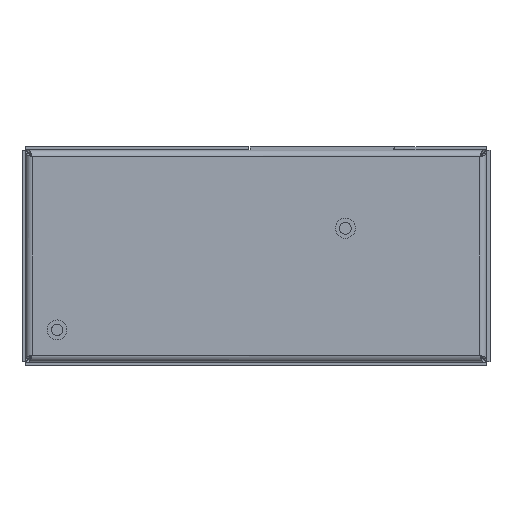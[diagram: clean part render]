
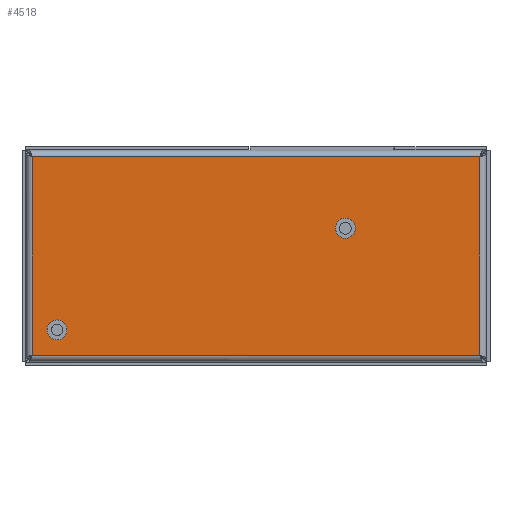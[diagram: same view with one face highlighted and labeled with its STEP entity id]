
A CAD part, front view. The second image highlights one B-rep face of the part: STEP entity #4518.
In plain terms, the highlighted planar face has unit normal (0, -1, 0).
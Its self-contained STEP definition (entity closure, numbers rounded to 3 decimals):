
#402 = CIRCLE ( 'NONE', #15128, 2.15 ) ;
#663 = FACE_OUTER_BOUND ( 'NONE', #9059, .T. ) ;
#2610 = LINE ( 'NONE', #20042, #12805 ) ;
#2728 = DIRECTION ( 'NONE',  ( 0., 1., 0. ) ) ;
#2893 = DIRECTION ( 'NONE',  ( 0., 0., -1. ) ) ;
#3172 = DIRECTION ( 'NONE',  ( 1., 0., 0. ) ) ;
#4118 = CARTESIAN_POINT ( 'NONE',  ( -42.94, 0., -13.805 ) ) ;
#4518 = ADVANCED_FACE ( 'NONE', ( #5193, #20456, #663 ), #18151, .T. ) ;
#5170 = VECTOR ( 'NONE', #23740, 1000. ) ;
#5193 = FACE_BOUND ( 'NONE', #11924, .T. ) ;
#5494 = VECTOR ( 'NONE', #20116, 1000. ) ;
#5734 = EDGE_CURVE ( 'NONE', #15230, #15230, #16824, .T. ) ;
#6645 = CARTESIAN_POINT ( 'NONE',  ( 48.34, 0., -21.44 ) ) ;
#6657 = DIRECTION ( 'NONE',  ( 0., 0., 1. ) ) ;
#6740 = CARTESIAN_POINT ( 'NONE',  ( -48.34, 0., 22.069 ) ) ;
#7777 = EDGE_CURVE ( 'NONE', #12523, #8359, #2610, .T. ) ;
#8180 = CARTESIAN_POINT ( 'NONE',  ( -48.34, 0., 21.44 ) ) ;
#8257 = LINE ( 'NONE', #10856, #24179 ) ;
#8359 = VERTEX_POINT ( 'NONE', #18526 ) ;
#8519 = DIRECTION ( 'NONE',  ( 0., 1., 0. ) ) ;
#8757 = ORIENTED_EDGE ( 'NONE', *, *, #5734, .T. ) ;
#8890 = EDGE_CURVE ( 'NONE', #16065, #12523, #8257, .T. ) ;
#9059 = EDGE_LOOP ( 'NONE', ( #12756, #18177, #21349, #24307 ) ) ;
#9081 = EDGE_LOOP ( 'NONE', ( #8757 ) ) ;
#10266 = LINE ( 'NONE', #10306, #5170 ) ;
#10306 = CARTESIAN_POINT ( 'NONE',  ( 48.969, 0., 21.44 ) ) ;
#10856 = CARTESIAN_POINT ( 'NONE',  ( -48.969, 0., -21.44 ) ) ;
#11924 = EDGE_LOOP ( 'NONE', ( #13949 ) ) ;
#12523 = VERTEX_POINT ( 'NONE', #6645 ) ;
#12756 = ORIENTED_EDGE ( 'NONE', *, *, #21798, .T. ) ;
#12805 = VECTOR ( 'NONE', #6657, 1000. ) ;
#13949 = ORIENTED_EDGE ( 'NONE', *, *, #14581, .T. ) ;
#14025 = VERTEX_POINT ( 'NONE', #4118 ) ;
#14212 = CARTESIAN_POINT ( 'NONE',  ( 19.29, 0., 5.965 ) ) ;
#14388 = DIRECTION ( 'NONE',  ( 0., -1., 0. ) ) ;
#14581 = EDGE_CURVE ( 'NONE', #14025, #14025, #402, .T. ) ;
#15127 = EDGE_CURVE ( 'NONE', #16327, #16065, #16297, .T. ) ;
#15128 = AXIS2_PLACEMENT_3D ( 'NONE', #19976, #8519, #21900 ) ;
#15230 = VERTEX_POINT ( 'NONE', #19362 ) ;
#16065 = VERTEX_POINT ( 'NONE', #18647 ) ;
#16129 = DIRECTION ( 'NONE',  ( 0., 0., 1. ) ) ;
#16297 = LINE ( 'NONE', #6740, #5494 ) ;
#16327 = VERTEX_POINT ( 'NONE', #8180 ) ;
#16824 = CIRCLE ( 'NONE', #22437, 2.15 ) ;
#18151 = PLANE ( 'NONE',  #18410 ) ;
#18177 = ORIENTED_EDGE ( 'NONE', *, *, #15127, .T. ) ;
#18410 = AXIS2_PLACEMENT_3D ( 'NONE', #23955, #14388, #2893 ) ;
#18526 = CARTESIAN_POINT ( 'NONE',  ( 48.34, 0., 21.44 ) ) ;
#18647 = CARTESIAN_POINT ( 'NONE',  ( -48.34, 0., -21.44 ) ) ;
#19362 = CARTESIAN_POINT ( 'NONE',  ( 19.29, 0., 8.115 ) ) ;
#19976 = CARTESIAN_POINT ( 'NONE',  ( -42.94, 0., -15.955 ) ) ;
#20042 = CARTESIAN_POINT ( 'NONE',  ( 48.34, 0., -22.069 ) ) ;
#20116 = DIRECTION ( 'NONE',  ( 0., 0., -1. ) ) ;
#20456 = FACE_BOUND ( 'NONE', #9081, .T. ) ;
#21349 = ORIENTED_EDGE ( 'NONE', *, *, #8890, .T. ) ;
#21798 = EDGE_CURVE ( 'NONE', #8359, #16327, #10266, .T. ) ;
#21900 = DIRECTION ( 'NONE',  ( 0., 0., 1. ) ) ;
#22437 = AXIS2_PLACEMENT_3D ( 'NONE', #14212, #2728, #16129 ) ;
#23740 = DIRECTION ( 'NONE',  ( -1., 0., 0. ) ) ;
#23955 = CARTESIAN_POINT ( 'NONE',  ( 0., 0., 0. ) ) ;
#24179 = VECTOR ( 'NONE', #3172, 1000. ) ;
#24307 = ORIENTED_EDGE ( 'NONE', *, *, #7777, .T. ) ;
